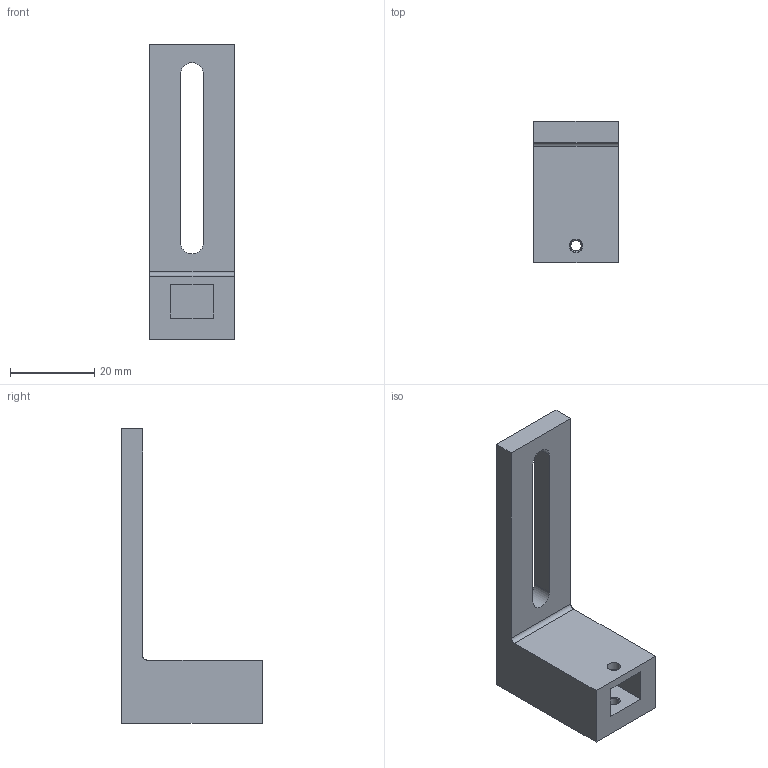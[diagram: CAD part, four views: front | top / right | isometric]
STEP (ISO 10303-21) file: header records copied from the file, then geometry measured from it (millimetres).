
FILE_DESCRIPTION(/* description */ (''),/* implementation_level */ '2;1');
FILE_NAME(/* name */ '砂轮阴极直角架.stp',/* time_stamp */ '2026-09-15T20:04:05+08:00',/* author */ (''),/* organization */ (''),/* preprocessor_version */ 'ST-DEVELOPER v20',/* originating_system */ 'SIEMENS PLM Software NX2312.1700',/* authorisation */ '');
FILE_SCHEMA (('AUTOMOTIVE_DESIGN { 1 0 10303 214 3 1 1 1 }'));
Length unit declared in the file: millimetre
Products named in the file (1): 阴极直角架
Bounding box: 20 x 33.5 x 70 mm (x, y, z)
Volume: 13494.3 mm3; surface area: 6077.1 mm2
Topology: 1 solids, 1 shells, 22 faces, 56 edges, 37 vertices
Faces by surface type: plane 15, cylinder 5, cone 2
Full cylindrical faces by diameter (mm): 2.5 x1, 3.2 x1
Entity records: 671 total; most frequent: CARTESIAN_POINT 110, DIRECTION 109, ORIENTED_EDGE 102, EDGE_CURVE 51, LINE 39, VECTOR 39, VERTEX_POINT 36, AXIS2_PLACEMENT_3D 35
